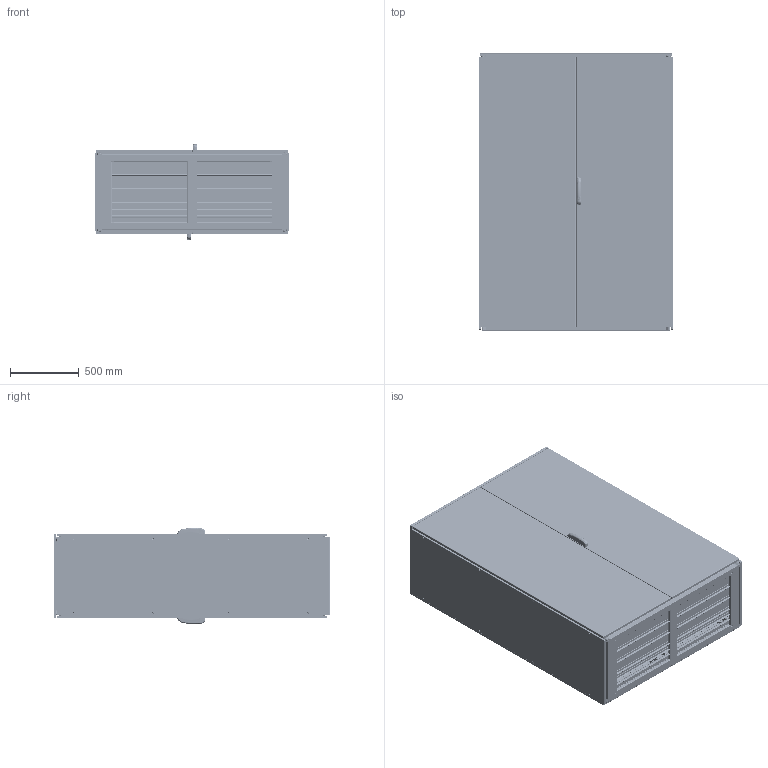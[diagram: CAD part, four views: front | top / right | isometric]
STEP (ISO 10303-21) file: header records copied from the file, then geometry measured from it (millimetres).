
FILE_DESCRIPTION (( 'STEP AP203' ), '1' );
FILE_NAME ('ENUX142006DP.STEP', '2025-06-03T06:58:46', ( '' ), ( '' ), 'SwSTEP 2.0', 'SolidWorks 2022', '' );
FILE_SCHEMA (( 'CONFIG_CONTROL_DESIGN' ));
Products named in the file (14): AR_ENUX_Struttura_1400x2000x0600; AR_ENUX_Porta_IB_2.0_1400x2000_POST; AR_ENUX_Porta_IB_2.0_1400x2000_ANT; AR_ENUX_Porta_CB_2.0_1400x2000_POST_DX; AR_ENUX_Porta_CB_2.0_1400x2000_ANT_DX; AR_ENUX_Fianco_0600x2000_SX; AR_ENUX_montaggio_porta_IB_2.0_1400x2000_POST_DX; AR_ENUX_Fianco_0600x2000_DX; ENUX142006DP; AR_ENUX_nuova_maniglia_mesan; AR_ENUX_montaggio_porta_IB_2.0_1400x2000_ANT_DX; AR_ENUX_Tetto_1400x0600; AR_ENUX_Tegolino_1400x0100; AR_ENUX_Tegolino_1400x0050
Assembly tree (22 placements, depth 3):
  ENUX142006DP
    AR_ENUX_Struttura_1400x2000x0600
    AR_ENUX_Fianco_0600x2000_SX
    AR_ENUX_Fianco_0600x2000_DX
    AR_ENUX_Tetto_1400x0600
    AR_ENUX_Tegolino_1400x0050  x4
    AR_ENUX_Tegolino_1400x0100  x6
    AR_ENUX_montaggio_porta_IB_2.0_1400x2000_ANT_DX
      AR_ENUX_Porta_IB_2.0_1400x2000_ANT
      AR_ENUX_nuova_maniglia_mesan
    AR_ENUX_Porta_CB_2.0_1400x2000_ANT_DX
    AR_ENUX_montaggio_porta_IB_2.0_1400x2000_POST_DX
      AR_ENUX_Porta_IB_2.0_1400x2000_POST
      AR_ENUX_nuova_maniglia_mesan
    AR_ENUX_Porta_CB_2.0_1400x2000_POST_DX
Bounding box: 1412 x 2008.5 x 700 mm (x, y, z)
Volume: 24472155.2 mm3; surface area: 29671095.7 mm2
Topology: 20 solids, 21 shells, 12702 faces, 36181 edges, 23454 vertices
Faces by surface type: plane 6733, cylinder 5106, bspline 390, torus 263, cone 132, sphere 78
Entity records: 447959 total; most frequent: CARTESIAN_POINT 111416, ORIENTED_EDGE 69514, DIRECTION 67497, EDGE_CURVE 34757, VECTOR 23397, LINE 23397, VERTEX_POINT 22756, AXIS2_PLACEMENT_3D 22050
